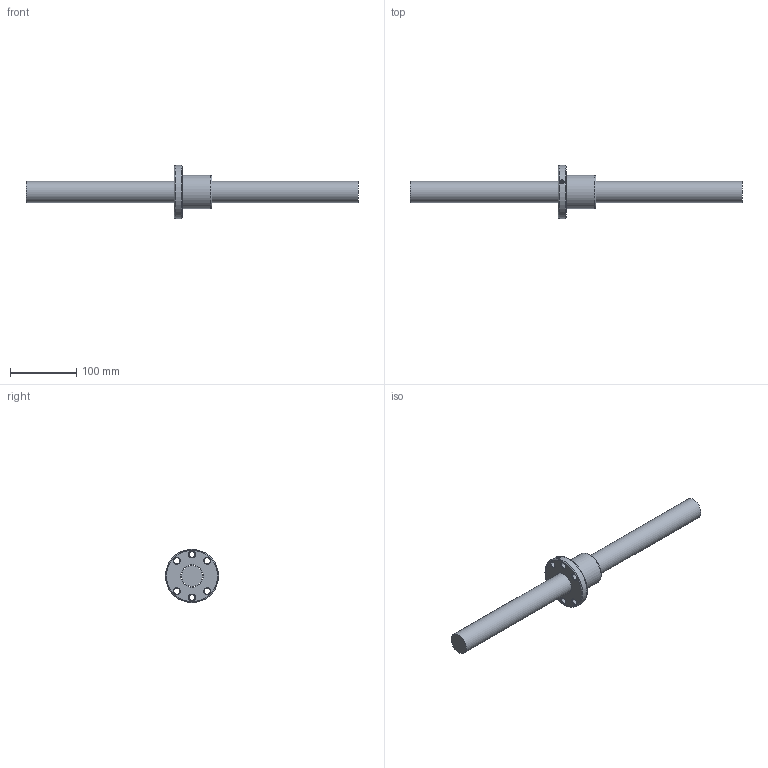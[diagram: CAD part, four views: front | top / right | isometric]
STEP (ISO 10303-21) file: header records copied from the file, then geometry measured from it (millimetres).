
FILE_DESCRIPTION (( 'STEP AP203' ), '1' );
FILE_NAME ('SFU03206N-4.step', '2024-05-14T06:01:39', ( '' ), ( '' ), 'SwSTEP 2.0', 'SolidWorks 2022', '' );
FILE_SCHEMA (( 'CONFIG_CONTROL_DESIGN' ));
Length unit declared in the file: millimetre
Products named in the file (1): SFU03206N-4
Bounding box: 500 x 80 x 80 mm (x, y, z)
Volume: 492001.8 mm3; surface area: 77299.3 mm2
Topology: 2 solids, 2 shells, 45 faces, 103 edges, 63 vertices
Faces by surface type: cylinder 18, cone 13, plane 6, bspline 5, torus 3
Full cylindrical faces by diameter (mm): 4 x1, 5 x6, 9 x6, 32 x1, 34.3 x1, 50 x1, 80 x1
Entity records: 2707 total; most frequent: CARTESIAN_POINT 1912, DIRECTION 148, ORIENTED_EDGE 102, EDGE_LOOP 84, AXIS2_PLACEMENT_3D 72, FACE_OUTER_BOUND 54, EDGE_CURVE 51, VERTEX_POINT 47
